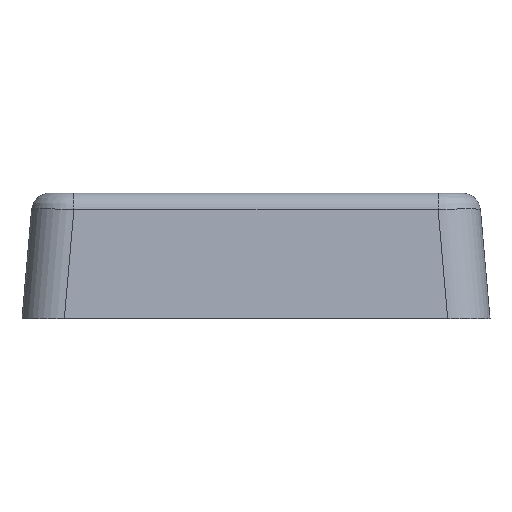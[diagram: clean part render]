
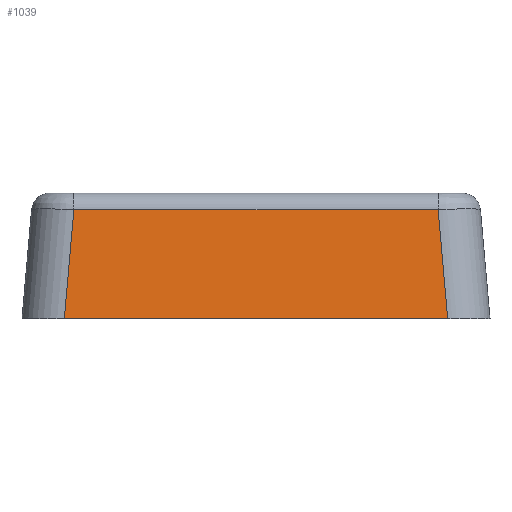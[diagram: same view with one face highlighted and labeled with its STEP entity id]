
A CAD part, left-side view. The second image highlights one B-rep face of the part: STEP entity #1039.
In plain terms, the highlighted planar face has unit normal (-0.996, 0, 0.087).
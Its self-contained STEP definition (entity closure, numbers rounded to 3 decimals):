
#615=PLANE('',#9255);
#1039=ADVANCED_FACE('',(#1567),#615,.T.);
#1567=FACE_OUTER_BOUND('',#2111,.T.);
#2111=EDGE_LOOP('',(#5808,#5809,#5810,#5811));
#2940=LINE('',#13935,#3803);
#2961=LINE('',#14028,#3824);
#2962=LINE('',#14030,#3825);
#2963=LINE('',#14032,#3826);
#3803=VECTOR('',#11224,1.);
#3824=VECTOR('',#11263,1.);
#3825=VECTOR('',#11266,1.);
#3826=VECTOR('',#11267,1.);
#5808=ORIENTED_EDGE('',*,*,#8211,.T.);
#5809=ORIENTED_EDGE('',*,*,#8212,.T.);
#5810=ORIENTED_EDGE('',*,*,#8213,.F.);
#5811=ORIENTED_EDGE('',*,*,#8184,.F.);
#7101=VERTEX_POINT('',#13934);
#7102=VERTEX_POINT('',#13936);
#7121=VERTEX_POINT('',#14027);
#7122=VERTEX_POINT('',#14031);
#8184=EDGE_CURVE('',#7101,#7102,#2940,.T.);
#8211=EDGE_CURVE('',#7101,#7121,#2961,.T.);
#8212=EDGE_CURVE('',#7121,#7122,#2962,.T.);
#8213=EDGE_CURVE('',#7102,#7122,#2963,.T.);
#9255=AXIS2_PLACEMENT_3D('',#14033,#11268,#11269);
#11224=DIRECTION('',(0.,1.,0.));
#11263=DIRECTION('',(0.087,0.087,0.992));
#11266=DIRECTION('',(0.,1.,0.));
#11267=DIRECTION('',(0.087,-0.087,0.992));
#11268=DIRECTION('',(-0.996,0.,0.087));
#11269=DIRECTION('',(0.087,0.,0.996));
#13934=CARTESIAN_POINT('',(-42.272,-87.468,0.));
#13935=CARTESIAN_POINT('',(-42.272,-119.403,0.));
#13936=CARTESIAN_POINT('',(-42.272,-23.973,0.));
#14027=CARTESIAN_POINT('',(-40.686,-85.882,18.121));
#14028=CARTESIAN_POINT('',(-42.032,-87.228,2.736));
#14030=CARTESIAN_POINT('',(-40.686,-25.814,18.121));
#14031=CARTESIAN_POINT('',(-40.686,-25.559,18.121));
#14032=CARTESIAN_POINT('',(-42.006,-24.239,3.039));
#14033=CARTESIAN_POINT('',(-42.272,-55.72,0.));
